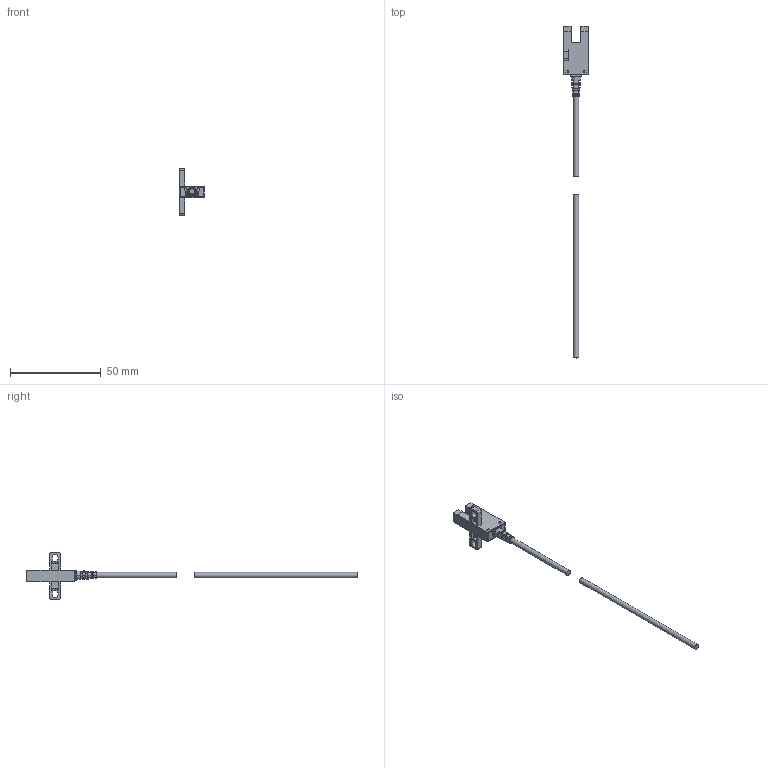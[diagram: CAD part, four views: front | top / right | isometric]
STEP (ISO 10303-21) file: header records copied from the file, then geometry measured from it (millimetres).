
FILE_DESCRIPTION(/* description */ (''),/* implementation_level */ '2;1');
FILE_NAME(/* name */ 'FC-SPX303Z-CP',/* time_stamp */ '2022-04-01T16:43:27+08:00',/* author */ (''),/* organization */ (''),/* preprocessor_version */ 'ST-DEVELOPER v9',/* originating_system */ 'UGS - NX 4.0',/* authorisation */ '');
FILE_SCHEMA (('CONFIG_CONTROL_DESIGN'));
Length unit declared in the file: millimetre
Products named in the file (1): FC-SPX303Z-CP
Bounding box: 13.6 x 182.95 x 25.8 mm (x, y, z)
Volume: 3342 mm3; surface area: 4012.7 mm2
Topology: 4 solids, 4 shells, 200 faces, 544 edges, 363 vertices
Faces by surface type: plane 165, cylinder 30, torus 3, cone 2
Full cylindrical faces by diameter (mm): 3 x2
Entity records: 7812 total; most frequent: CARTESIAN_POINT 2610, ORIENTED_EDGE 1082, DIRECTION 982, EDGE_CURVE 541, LINE 410, VECTOR 410, VERTEX_POINT 362, AXIS2_PLACEMENT_3D 286
